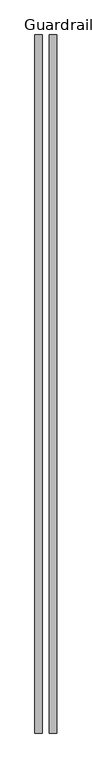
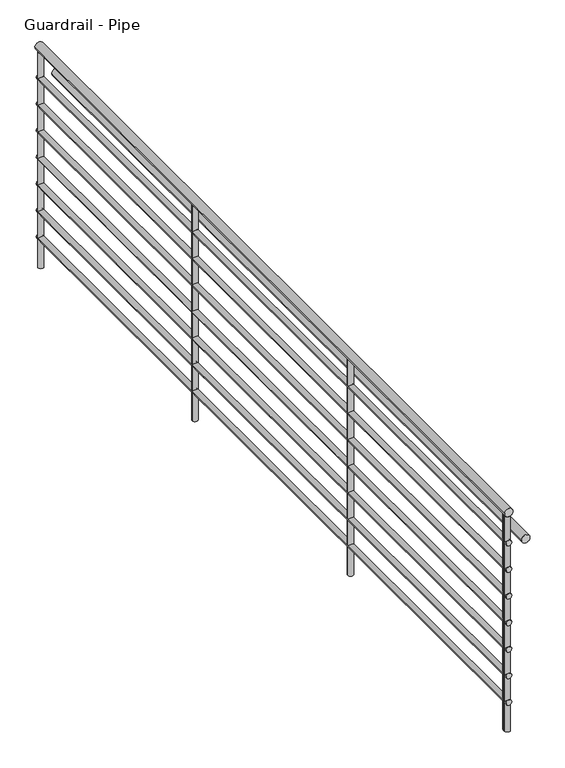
"""IFC4 building model written with IfcOpenShell, lengths in millimetres: railing geometry, Guardrail - Pipe."""

from ifc_helpers import new_model, si_unit, point, frame, frame_2d, origin, origin_with_axes, place, context, project, spatial, circle_curve, trimmed, segment, composite_curve, outline, extrude, source, transform, mapped, element, save


def guardrail_pipe_4b02b070(model_context):
    return source(origin(), model_context, "Body", "SweptSolid", [
        extrude(outline(composite_curve([segment(trimmed(circle_curve(frame_2d((1047.75, -43916.202824)), 19.05), [point((1047.75, -43897.152824))], [point((1047.75, -43935.252824))], False, "CARTESIAN"), True, "CONTINUOUS"), segment(trimmed(circle_curve(frame_2d((1047.75, -43916.202824)), 19.05), [point((1047.75, -43935.252824))], [point((1047.75, -43897.152824))], False, "CARTESIAN"), True, "CONTINUOUS")], self_intersect=False)), frame((0.0, 18530.86029, 0.0), z_axis=(0.0, 1.0, 0.0), x_axis=(0.0, 0.0, 1.0)), (0.0, 0.0, 1.0), 3678.2375),
        extrude(outline(composite_curve([segment(trimmed(circle_curve(frame_2d((901.7, -43916.202824)), 12.7), [point((901.7, -43903.502824))], [point((901.7, -43928.902824))], False, "CARTESIAN"), True, "CONTINUOUS"), segment(trimmed(circle_curve(frame_2d((901.7, -43916.202824)), 12.7), [point((901.7, -43928.902824))], [point((901.7, -43903.502824))], False, "CARTESIAN"), True, "CONTINUOUS")], self_intersect=False)), frame((0.0, 18530.86029, 0.0), z_axis=(0.0, 1.0, 0.0), x_axis=(0.0, 0.0, 1.0)), (0.0, 0.0, 1.0), 3678.2375),
        extrude(outline(composite_curve([segment(trimmed(circle_curve(frame_2d((895.35, -43840.002824)), 19.05), [point((895.35, -43820.952824))], [point((895.35, -43859.052824))], False, "CARTESIAN"), True, "CONTINUOUS"), segment(trimmed(circle_curve(frame_2d((895.35, -43840.002824)), 19.05), [point((895.35, -43859.052824))], [point((895.35, -43820.952824))], False, "CARTESIAN"), True, "CONTINUOUS")], self_intersect=False)), frame((0.0, 18530.86029, 0.0), z_axis=(0.0, 1.0, 0.0), x_axis=(0.0, 0.0, 1.0)), (0.0, 0.0, 1.0), 3678.2375),
        extrude(outline(composite_curve([segment(trimmed(circle_curve(frame_2d((774.7, -43916.202824)), 12.7), [point((774.7, -43903.502824))], [point((774.7, -43928.902824))], False, "CARTESIAN"), True, "CONTINUOUS"), segment(trimmed(circle_curve(frame_2d((774.7, -43916.202824)), 12.7), [point((774.7, -43928.902824))], [point((774.7, -43903.502824))], False, "CARTESIAN"), True, "CONTINUOUS")], self_intersect=False)), frame((0.0, 18530.86029, 0.0), z_axis=(0.0, 1.0, 0.0), x_axis=(0.0, 0.0, 1.0)), (0.0, 0.0, 1.0), 3678.2375),
        extrude(outline(composite_curve([segment(trimmed(circle_curve(frame_2d((647.7, -43916.202824)), 12.7), [point((647.7, -43903.502824))], [point((647.7, -43928.902824))], False, "CARTESIAN"), True, "CONTINUOUS"), segment(trimmed(circle_curve(frame_2d((647.7, -43916.202824)), 12.7), [point((647.7, -43928.902824))], [point((647.7, -43903.502824))], False, "CARTESIAN"), True, "CONTINUOUS")], self_intersect=False)), frame((0.0, 18530.86029, 0.0), z_axis=(0.0, 1.0, 0.0), x_axis=(0.0, 0.0, 1.0)), (0.0, 0.0, 1.0), 3678.2375),
        extrude(outline(composite_curve([segment(trimmed(circle_curve(frame_2d((520.7, -43916.202824)), 12.7), [point((520.7, -43903.502824))], [point((520.7, -43928.902824))], False, "CARTESIAN"), True, "CONTINUOUS"), segment(trimmed(circle_curve(frame_2d((520.7, -43916.202824)), 12.7), [point((520.7, -43928.902824))], [point((520.7, -43903.502824))], False, "CARTESIAN"), True, "CONTINUOUS")], self_intersect=False)), frame((0.0, 18530.86029, 0.0), z_axis=(0.0, 1.0, 0.0), x_axis=(0.0, 0.0, 1.0)), (0.0, 0.0, 1.0), 3678.2375),
        extrude(outline(composite_curve([segment(trimmed(circle_curve(frame_2d((393.7, -43916.202824)), 12.7), [point((393.7, -43903.502824))], [point((393.7, -43928.902824))], False, "CARTESIAN"), True, "CONTINUOUS"), segment(trimmed(circle_curve(frame_2d((393.7, -43916.202824)), 12.7), [point((393.7, -43928.902824))], [point((393.7, -43903.502824))], False, "CARTESIAN"), True, "CONTINUOUS")], self_intersect=False)), frame((0.0, 18530.86029, 0.0), z_axis=(0.0, 1.0, 0.0), x_axis=(0.0, 0.0, 1.0)), (0.0, 0.0, 1.0), 3678.2375),
        extrude(outline(composite_curve([segment(trimmed(circle_curve(frame_2d((266.7, -43916.202824)), 12.7), [point((266.7, -43903.502824))], [point((266.7, -43928.902824))], False, "CARTESIAN"), True, "CONTINUOUS"), segment(trimmed(circle_curve(frame_2d((266.7, -43916.202824)), 12.7), [point((266.7, -43928.902824))], [point((266.7, -43903.502824))], False, "CARTESIAN"), True, "CONTINUOUS")], self_intersect=False)), frame((0.0, 18530.86029, 0.0), z_axis=(0.0, 1.0, 0.0), x_axis=(0.0, 0.0, 1.0)), (0.0, 0.0, 1.0), 3678.2375),
        extrude(outline(composite_curve([segment(trimmed(circle_curve(frame_2d((139.7, -43916.202824)), 12.7), [point((139.7, -43903.502824))], [point((139.7, -43928.902824))], False, "CARTESIAN"), True, "CONTINUOUS"), segment(trimmed(circle_curve(frame_2d((139.7, -43916.202824)), 12.7), [point((139.7, -43928.902824))], [point((139.7, -43903.502824))], False, "CARTESIAN"), True, "CONTINUOUS")], self_intersect=False)), frame((0.0, 18530.86029, 0.0), z_axis=(0.0, 1.0, 0.0), x_axis=(0.0, 0.0, 1.0)), (0.0, 0.0, 1.0), 3678.2375),
        extrude(outline(composite_curve([segment(trimmed(circle_curve(frame_2d((-43916.202824, 18551.49779)), 12.7), [point((-43903.502824, 18551.49779))], [point((-43928.902824, 18551.49779))], False, "CARTESIAN"), True, "CONTINUOUS"), segment(trimmed(circle_curve(frame_2d((-43916.202824, 18551.49779)), 12.7), [point((-43928.902824, 18551.49779))], [point((-43903.502824, 18551.49779))], False, "CARTESIAN"), True, "CONTINUOUS")], self_intersect=False)), origin_with_axes(), (0.0, 0.0, 1.0), 1028.7),
        extrude(outline(composite_curve([segment(trimmed(circle_curve(frame_2d((-43916.202824, 19770.69779)), 12.7), [point((-43903.502824, 19770.69779))], [point((-43928.902824, 19770.69779))], False, "CARTESIAN"), True, "CONTINUOUS"), segment(trimmed(circle_curve(frame_2d((-43916.202824, 19770.69779)), 12.7), [point((-43928.902824, 19770.69779))], [point((-43903.502824, 19770.69779))], False, "CARTESIAN"), True, "CONTINUOUS")], self_intersect=False)), origin_with_axes(), (0.0, 0.0, 1.0), 1028.7),
        extrude(outline(composite_curve([segment(trimmed(circle_curve(frame_2d((-43916.202824, 20989.89779)), 12.7), [point((-43903.502824, 20989.89779))], [point((-43928.902824, 20989.89779))], False, "CARTESIAN"), True, "CONTINUOUS"), segment(trimmed(circle_curve(frame_2d((-43916.202824, 20989.89779)), 12.7), [point((-43928.902824, 20989.89779))], [point((-43903.502824, 20989.89779))], False, "CARTESIAN"), True, "CONTINUOUS")], self_intersect=False)), origin_with_axes(), (0.0, 0.0, 1.0), 1028.7),
        extrude(outline(composite_curve([segment(trimmed(circle_curve(frame_2d((-43916.202824, 18543.56029)), 12.7), [point((-43903.502824, 18543.56029))], [point((-43928.902824, 18543.56029))], False, "CARTESIAN"), True, "CONTINUOUS"), segment(trimmed(circle_curve(frame_2d((-43916.202824, 18543.56029)), 12.7), [point((-43928.902824, 18543.56029))], [point((-43903.502824, 18543.56029))], False, "CARTESIAN"), True, "CONTINUOUS")], self_intersect=False)), origin_with_axes(), (0.0, 0.0, 1.0), 1028.7),
        extrude(outline(composite_curve([segment(trimmed(circle_curve(frame_2d((-43916.202824, 22196.39779)), 12.7), [point((-43903.502824, 22196.39779))], [point((-43928.902824, 22196.39779))], False, "CARTESIAN"), True, "CONTINUOUS"), segment(trimmed(circle_curve(frame_2d((-43916.202824, 22196.39779)), 12.7), [point((-43928.902824, 22196.39779))], [point((-43903.502824, 22196.39779))], False, "CARTESIAN"), True, "CONTINUOUS")], self_intersect=False)), origin_with_axes(), (0.0, 0.0, 1.0), 1028.7),
    ])


if __name__ == "__main__":
    model = new_model("IFC4")
    model_context = context("Model", 3, world=origin())
    ifc_project = project(units=[si_unit("LENGTHUNIT", "METRE", prefix="MILLI")], contexts=[model_context])
    site = spatial("IfcSite", under=ifc_project)
    building = spatial("IfcBuilding", under=site)
    placement = place(None, origin())
    guardrail_pipe_shape = guardrail_pipe_4b02b070(model_context)
    element("IfcRailing", 1, ObjectType="Guardrail - Pipe", at=placement, inside=building, context=model_context, shape_type="MappedRepresentation", body=[
        mapped(guardrail_pipe_shape, transform((0.0, 0.0, 0.0), x_axis=(1.0, 0.0, 0.0), y_axis=(0.0, 1.0, 0.0), z_axis=(0.0, 0.0, 1.0))),
    ])
    save(model, "model.ifc")
